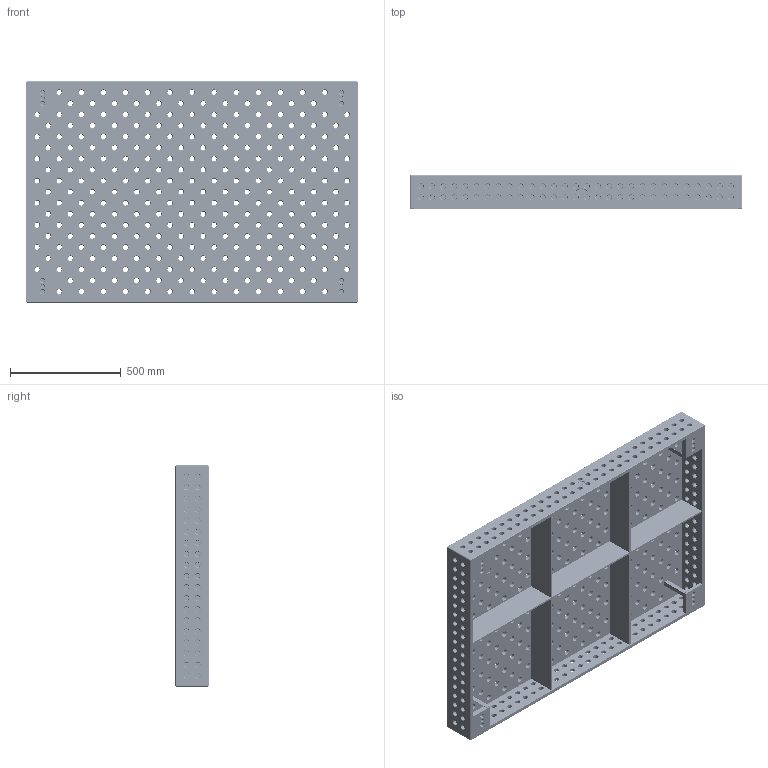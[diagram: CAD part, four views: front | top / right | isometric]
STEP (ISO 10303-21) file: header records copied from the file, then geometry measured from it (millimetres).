
FILE_DESCRIPTION (( 'STEP AP203' ), '1' );
FILE_NAME ('220035.D.STEP', '2021-04-13T06:53:01', ( '' ), ( '' ), 'SwSTEP 2.0', 'SolidWorks 2020', '' );
FILE_SCHEMA (( 'CONFIG_CONTROL_DESIGN' ));
Products named in the file (1): 220035.D
Bounding box: 1500 x 150 x 1000 mm (x, y, z)
Volume: 39478862.9 mm3; surface area: 5500307.2 mm2
Topology: 1 solids, 1 shells, 2988 faces, 7020 edges, 4032 vertices
Faces by surface type: cone 988, cylinder 980, torus 940, plane 76, bspline 4
Entity records: 88517 total; most frequent: DIRECTION 17808, CARTESIAN_POINT 14641, ORIENTED_EDGE 14040, AXIS2_PLACEMENT_3D 7811, EDGE_CURVE 7020, CIRCLE 4826, VERTEX_POINT 4032, EDGE_LOOP 3954
